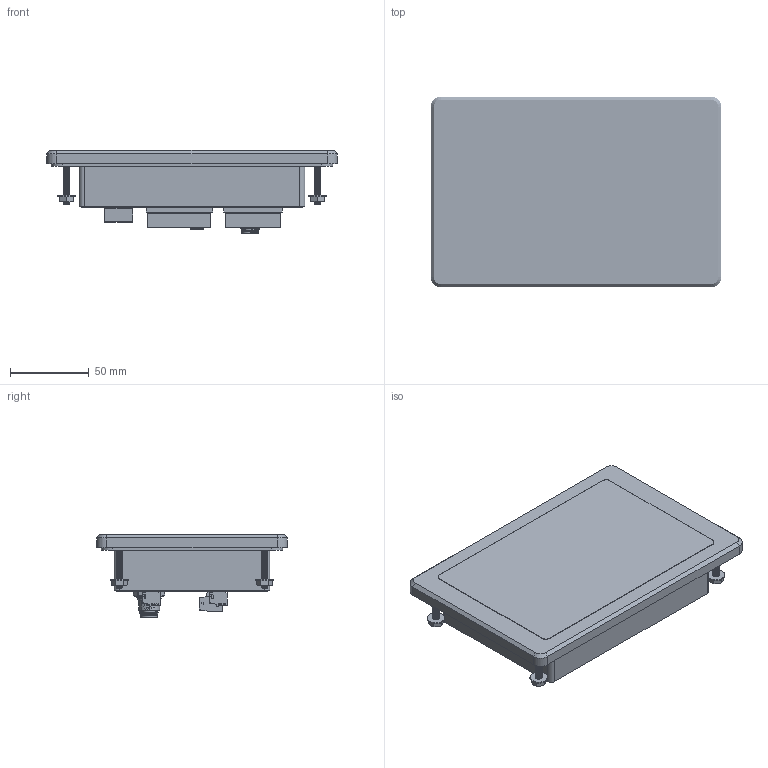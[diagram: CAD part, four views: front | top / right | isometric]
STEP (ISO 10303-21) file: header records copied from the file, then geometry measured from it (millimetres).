
FILE_DESCRIPTION (( 'STEP AP214' ), '1' );
FILE_NAME ('6300-0200-GA_rev3.STEP', '2022-07-28T16:31:37', ( '' ), ( '' ), 'SwSTEP 2.0', 'SolidWorks 2021', '' );
FILE_SCHEMA (( 'AUTOMOTIVE_DESIGN' ));
Length unit declared in the file: inch
Products named in the file (1): 6300-0200-GA_rev3
Bounding box: 184.15 x 120.65 x 52.99 mm (x, y, z)
Volume: 598540.1 mm3; surface area: 78179.1 mm2
Topology: 10 solids, 17 shells, 2425 faces, 6507 edges, 4246 vertices
Faces by surface type: plane 1053, cylinder 800, bspline 329, cone 192, torus 49, sphere 2
Entity records: 160619 total; most frequent: CARTESIAN_POINT 74514, ORIENTED_EDGE 12958, DIRECTION 8945, EDGE_CURVE 6479, VERTEX_POINT 4232, AXIS2_PLACEMENT_3D 3015, LINE 2915, VECTOR 2915
